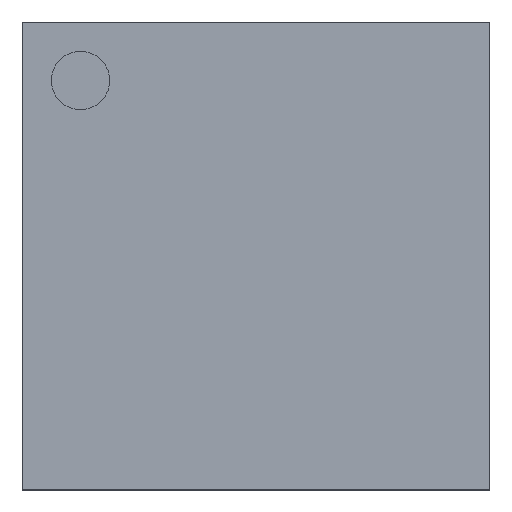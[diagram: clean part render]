
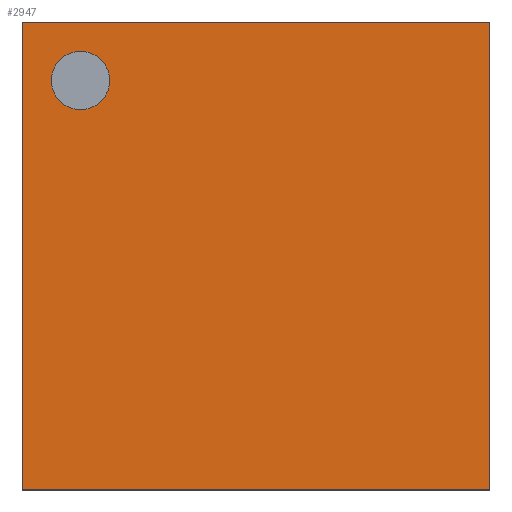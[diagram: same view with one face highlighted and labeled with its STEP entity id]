
A CAD part, top view. The second image highlights one B-rep face of the part: STEP entity #2947.
In plain terms, the highlighted planar face has unit normal (0, 0, 1).
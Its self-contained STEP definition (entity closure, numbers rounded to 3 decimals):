
#2758 = VERTEX_POINT('',#2759);
#2759 = CARTESIAN_POINT('',(-6.5,-6.5,1.5));
#2766 = PLANE('',#2767);
#2767 = AXIS2_PLACEMENT_3D('',#2768,#2769,#2770);
#2768 = CARTESIAN_POINT('',(-6.5,-6.5,0.4));
#2769 = DIRECTION('',(1.,0.,0.));
#2770 = DIRECTION('',(0.,0.,1.));
#2778 = PLANE('',#2779);
#2779 = AXIS2_PLACEMENT_3D('',#2780,#2781,#2782);
#2780 = CARTESIAN_POINT('',(-6.5,-6.5,0.4));
#2781 = DIRECTION('',(0.,1.,0.));
#2782 = DIRECTION('',(0.,0.,1.));
#2819 = VERTEX_POINT('',#2820);
#2820 = CARTESIAN_POINT('',(-6.5,6.5,1.5));
#2834 = PLANE('',#2835);
#2835 = AXIS2_PLACEMENT_3D('',#2836,#2837,#2838);
#2836 = CARTESIAN_POINT('',(-6.5,6.5,0.4));
#2837 = DIRECTION('',(0.,1.,0.));
#2838 = DIRECTION('',(0.,0.,1.));
#2846 = EDGE_CURVE('',#2758,#2819,#2847,.T.);
#2847 = SURFACE_CURVE('',#2848,(#2852,#2859),.PCURVE_S1.);
#2848 = LINE('',#2849,#2850);
#2849 = CARTESIAN_POINT('',(-6.5,-6.5,1.5));
#2850 = VECTOR('',#2851,1.);
#2851 = DIRECTION('',(0.,1.,0.));
#2852 = PCURVE('',#2766,#2853);
#2853 = DEFINITIONAL_REPRESENTATION('',(#2854),#2858);
#2854 = LINE('',#2855,#2856);
#2855 = CARTESIAN_POINT('',(1.1,0.));
#2856 = VECTOR('',#2857,1.);
#2857 = DIRECTION('',(0.,-1.));
#2858 = ( GEOMETRIC_REPRESENTATION_CONTEXT(2) 
PARAMETRIC_REPRESENTATION_CONTEXT() REPRESENTATION_CONTEXT('2D SPACE',''
  ) );
#2859 = PCURVE('',#2860,#2865);
#2860 = PLANE('',#2861);
#2861 = AXIS2_PLACEMENT_3D('',#2862,#2863,#2864);
#2862 = CARTESIAN_POINT('',(-6.5,-6.5,1.5));
#2863 = DIRECTION('',(0.,0.,1.));
#2864 = DIRECTION('',(1.,0.,0.));
#2865 = DEFINITIONAL_REPRESENTATION('',(#2866),#2870);
#2866 = LINE('',#2867,#2868);
#2867 = CARTESIAN_POINT('',(0.,0.));
#2868 = VECTOR('',#2869,1.);
#2869 = DIRECTION('',(0.,1.));
#2870 = ( GEOMETRIC_REPRESENTATION_CONTEXT(2) 
PARAMETRIC_REPRESENTATION_CONTEXT() REPRESENTATION_CONTEXT('2D SPACE',''
  ) );
#2899 = EDGE_CURVE('',#2758,#2900,#2902,.T.);
#2900 = VERTEX_POINT('',#2901);
#2901 = CARTESIAN_POINT('',(6.5,-6.5,1.5));
#2902 = SURFACE_CURVE('',#2903,(#2907,#2914),.PCURVE_S1.);
#2903 = LINE('',#2904,#2905);
#2904 = CARTESIAN_POINT('',(-6.5,-6.5,1.5));
#2905 = VECTOR('',#2906,1.);
#2906 = DIRECTION('',(1.,0.,0.));
#2907 = PCURVE('',#2778,#2908);
#2908 = DEFINITIONAL_REPRESENTATION('',(#2909),#2913);
#2909 = LINE('',#2910,#2911);
#2910 = CARTESIAN_POINT('',(1.1,0.));
#2911 = VECTOR('',#2912,1.);
#2912 = DIRECTION('',(0.,1.));
#2913 = ( GEOMETRIC_REPRESENTATION_CONTEXT(2) 
PARAMETRIC_REPRESENTATION_CONTEXT() REPRESENTATION_CONTEXT('2D SPACE',''
  ) );
#2914 = PCURVE('',#2860,#2915);
#2915 = DEFINITIONAL_REPRESENTATION('',(#2916),#2920);
#2916 = LINE('',#2917,#2918);
#2917 = CARTESIAN_POINT('',(0.,0.));
#2918 = VECTOR('',#2919,1.);
#2919 = DIRECTION('',(1.,0.));
#2920 = ( GEOMETRIC_REPRESENTATION_CONTEXT(2) 
PARAMETRIC_REPRESENTATION_CONTEXT() REPRESENTATION_CONTEXT('2D SPACE',''
  ) );
#2936 = PLANE('',#2937);
#2937 = AXIS2_PLACEMENT_3D('',#2938,#2939,#2940);
#2938 = CARTESIAN_POINT('',(6.5,-6.5,0.4));
#2939 = DIRECTION('',(1.,0.,0.));
#2940 = DIRECTION('',(0.,0.,1.));
#2947 = ADVANCED_FACE('',(#2948,#2996),#2860,.T.);
#2948 = FACE_BOUND('',#2949,.T.);
#2949 = EDGE_LOOP('',(#2950,#2951,#2952,#2975));
#2950 = ORIENTED_EDGE('',*,*,#2846,.F.);
#2951 = ORIENTED_EDGE('',*,*,#2899,.T.);
#2952 = ORIENTED_EDGE('',*,*,#2953,.T.);
#2953 = EDGE_CURVE('',#2900,#2954,#2956,.T.);
#2954 = VERTEX_POINT('',#2955);
#2955 = CARTESIAN_POINT('',(6.5,6.5,1.5));
#2956 = SURFACE_CURVE('',#2957,(#2961,#2968),.PCURVE_S1.);
#2957 = LINE('',#2958,#2959);
#2958 = CARTESIAN_POINT('',(6.5,-6.5,1.5));
#2959 = VECTOR('',#2960,1.);
#2960 = DIRECTION('',(0.,1.,0.));
#2961 = PCURVE('',#2860,#2962);
#2962 = DEFINITIONAL_REPRESENTATION('',(#2963),#2967);
#2963 = LINE('',#2964,#2965);
#2964 = CARTESIAN_POINT('',(13.,0.));
#2965 = VECTOR('',#2966,1.);
#2966 = DIRECTION('',(0.,1.));
#2967 = ( GEOMETRIC_REPRESENTATION_CONTEXT(2) 
PARAMETRIC_REPRESENTATION_CONTEXT() REPRESENTATION_CONTEXT('2D SPACE',''
  ) );
#2968 = PCURVE('',#2936,#2969);
#2969 = DEFINITIONAL_REPRESENTATION('',(#2970),#2974);
#2970 = LINE('',#2971,#2972);
#2971 = CARTESIAN_POINT('',(1.1,0.));
#2972 = VECTOR('',#2973,1.);
#2973 = DIRECTION('',(0.,-1.));
#2974 = ( GEOMETRIC_REPRESENTATION_CONTEXT(2) 
PARAMETRIC_REPRESENTATION_CONTEXT() REPRESENTATION_CONTEXT('2D SPACE',''
  ) );
#2975 = ORIENTED_EDGE('',*,*,#2976,.F.);
#2976 = EDGE_CURVE('',#2819,#2954,#2977,.T.);
#2977 = SURFACE_CURVE('',#2978,(#2982,#2989),.PCURVE_S1.);
#2978 = LINE('',#2979,#2980);
#2979 = CARTESIAN_POINT('',(-6.5,6.5,1.5));
#2980 = VECTOR('',#2981,1.);
#2981 = DIRECTION('',(1.,0.,0.));
#2982 = PCURVE('',#2860,#2983);
#2983 = DEFINITIONAL_REPRESENTATION('',(#2984),#2988);
#2984 = LINE('',#2985,#2986);
#2985 = CARTESIAN_POINT('',(0.,13.));
#2986 = VECTOR('',#2987,1.);
#2987 = DIRECTION('',(1.,0.));
#2988 = ( GEOMETRIC_REPRESENTATION_CONTEXT(2) 
PARAMETRIC_REPRESENTATION_CONTEXT() REPRESENTATION_CONTEXT('2D SPACE',''
  ) );
#2989 = PCURVE('',#2834,#2990);
#2990 = DEFINITIONAL_REPRESENTATION('',(#2991),#2995);
#2991 = LINE('',#2992,#2993);
#2992 = CARTESIAN_POINT('',(1.1,0.));
#2993 = VECTOR('',#2994,1.);
#2994 = DIRECTION('',(0.,1.));
#2995 = ( GEOMETRIC_REPRESENTATION_CONTEXT(2) 
PARAMETRIC_REPRESENTATION_CONTEXT() REPRESENTATION_CONTEXT('2D SPACE',''
  ) );
#2996 = FACE_BOUND('',#2997,.T.);
#2997 = EDGE_LOOP('',(#2998));
#2998 = ORIENTED_EDGE('',*,*,#2999,.F.);
#2999 = EDGE_CURVE('',#3000,#3000,#3002,.T.);
#3000 = VERTEX_POINT('',#3001);
#3001 = CARTESIAN_POINT('',(-4.063,4.875,1.5));
#3002 = SURFACE_CURVE('',#3003,(#3008,#3015),.PCURVE_S1.);
#3003 = CIRCLE('',#3004,0.813);
#3004 = AXIS2_PLACEMENT_3D('',#3005,#3006,#3007);
#3005 = CARTESIAN_POINT('',(-4.875,4.875,1.5));
#3006 = DIRECTION('',(0.,0.,1.));
#3007 = DIRECTION('',(1.,0.,0.));
#3008 = PCURVE('',#2860,#3009);
#3009 = DEFINITIONAL_REPRESENTATION('',(#3010),#3014);
#3010 = CIRCLE('',#3011,0.813);
#3011 = AXIS2_PLACEMENT_2D('',#3012,#3013);
#3012 = CARTESIAN_POINT('',(1.625,11.375));
#3013 = DIRECTION('',(1.,0.));
#3014 = ( GEOMETRIC_REPRESENTATION_CONTEXT(2) 
PARAMETRIC_REPRESENTATION_CONTEXT() REPRESENTATION_CONTEXT('2D SPACE',''
  ) );
#3015 = PCURVE('',#3016,#3021);
#3016 = CYLINDRICAL_SURFACE('',#3017,0.813);
#3017 = AXIS2_PLACEMENT_3D('',#3018,#3019,#3020);
#3018 = CARTESIAN_POINT('',(-4.875,4.875,1.35));
#3019 = DIRECTION('',(0.,0.,1.));
#3020 = DIRECTION('',(1.,0.,0.));
#3021 = DEFINITIONAL_REPRESENTATION('',(#3022),#3026);
#3022 = LINE('',#3023,#3024);
#3023 = CARTESIAN_POINT('',(0.,0.15));
#3024 = VECTOR('',#3025,1.);
#3025 = DIRECTION('',(1.,0.));
#3026 = ( GEOMETRIC_REPRESENTATION_CONTEXT(2) 
PARAMETRIC_REPRESENTATION_CONTEXT() REPRESENTATION_CONTEXT('2D SPACE',''
  ) );
